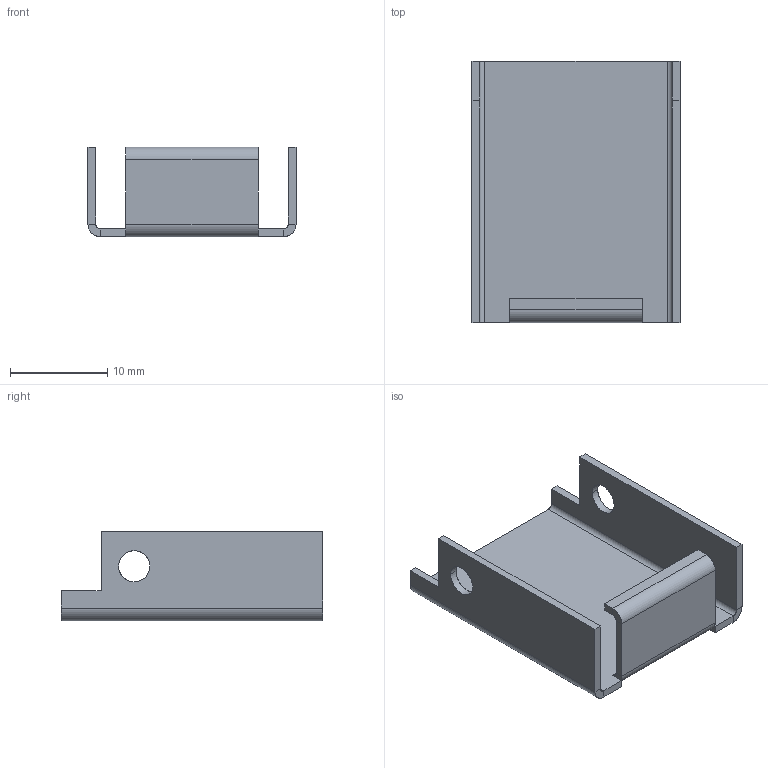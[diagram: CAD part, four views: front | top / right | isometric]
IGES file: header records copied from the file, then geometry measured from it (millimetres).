
Start section: SolidWorks IGES FILE using analytic representation for surfaces
Global section: file name: C:\Documents and Settings\brechard\Bureau\GP 10\10.060.10.IGS; native system: SolidWorks 2001Plus by SolidWorks Corporation; preprocessor: Version 5.3; author: brechard; date: 050126.143910; units: millimetre
Bounding box: 21.4 x 26.9 x 9.2 mm (x, y, z)
Surface area: 2270.4 mm2 (no closed solid volume)
Topology: 0 solids, 0 shells, 50 faces, 422 edges, 422 vertices
Faces by surface type: bspline 38, revolution 12
